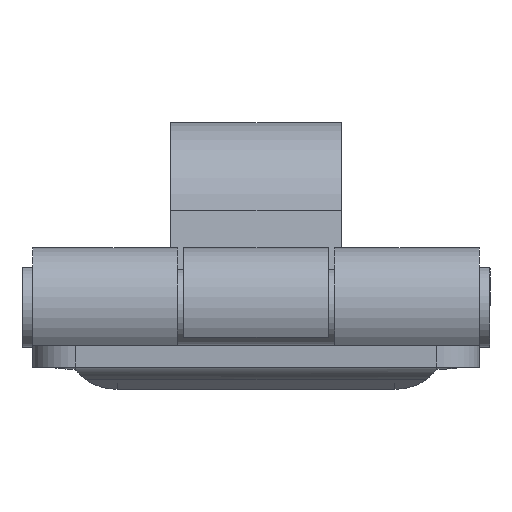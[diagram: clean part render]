
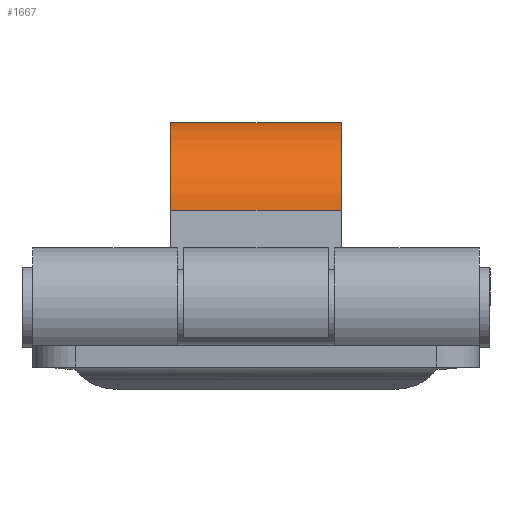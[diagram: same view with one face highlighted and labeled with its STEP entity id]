
A CAD part, left-side view. The second image highlights one B-rep face of the part: STEP entity #1667.
In plain terms, the highlighted cylindrical face has radius 4.65 mm (diameter 9.3 mm), a partial arc.
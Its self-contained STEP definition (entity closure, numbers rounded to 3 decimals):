
#115=CYLINDRICAL_SURFACE('',#1828,4.65);
#197=FACE_OUTER_BOUND('',#304,.T.);
#304=EDGE_LOOP('',(#1494,#1495,#1496,#1497));
#373=CIRCLE('',#1805,4.65);
#383=CIRCLE('',#1817,4.65);
#534=LINE('',#2939,#680);
#535=LINE('',#2941,#681);
#680=VECTOR('',#2283,8.);
#681=VECTOR('',#2286,8.);
#814=VERTEX_POINT('',#2867);
#815=VERTEX_POINT('',#2869);
#834=VERTEX_POINT('',#2912);
#835=VERTEX_POINT('',#2914);
#1029=EDGE_CURVE('',#815,#814,#373,.T.);
#1052=EDGE_CURVE('',#835,#834,#383,.T.);
#1066=EDGE_CURVE('',#835,#814,#534,.T.);
#1067=EDGE_CURVE('',#834,#815,#535,.T.);
#1494=ORIENTED_EDGE('',*,*,#1029,.T.);
#1495=ORIENTED_EDGE('',*,*,#1066,.F.);
#1496=ORIENTED_EDGE('',*,*,#1052,.T.);
#1497=ORIENTED_EDGE('',*,*,#1067,.T.);
#1667=ADVANCED_FACE('',(#197),#115,.T.);
#1805=AXIS2_PLACEMENT_3D('',#2870,#2212,#2213);
#1817=AXIS2_PLACEMENT_3D('',#2915,#2249,#2250);
#1828=AXIS2_PLACEMENT_3D('',#2940,#2284,#2285);
#2212=DIRECTION('center_axis',(0.,0.,1.));
#2213=DIRECTION('ref_axis',(0.994,0.113,0.));
#2249=DIRECTION('center_axis',(0.,0.,-1.));
#2250=DIRECTION('ref_axis',(0.994,0.113,0.));
#2283=DIRECTION('',(0.,0.,-1.));
#2284=DIRECTION('center_axis',(0.,0.,-1.));
#2285=DIRECTION('ref_axis',(0.994,0.113,0.));
#2286=DIRECTION('',(0.,0.,-1.));
#2867=CARTESIAN_POINT('',(-4.62,7.377,-4.));
#2869=CARTESIAN_POINT('',(4.62,7.377,-4.));
#2870=CARTESIAN_POINT('Origin',(0.,6.85,-4.));
#2912=CARTESIAN_POINT('',(4.62,7.377,4.));
#2914=CARTESIAN_POINT('',(-4.62,7.377,4.));
#2915=CARTESIAN_POINT('Origin',(0.,6.85,4.));
#2939=CARTESIAN_POINT('',(-4.62,7.377,9.));
#2940=CARTESIAN_POINT('Origin',(0.,6.85,9.));
#2941=CARTESIAN_POINT('',(4.62,7.377,9.));
